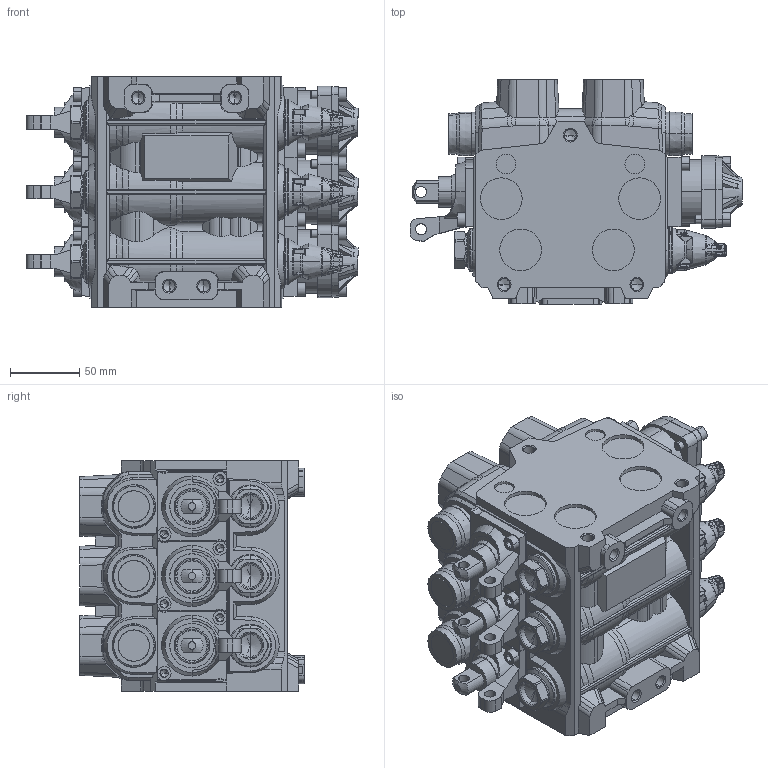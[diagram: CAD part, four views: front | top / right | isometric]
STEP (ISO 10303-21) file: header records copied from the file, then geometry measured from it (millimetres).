
FILE_DESCRIPTION (( 'STEP AP203' ), '1' );
FILE_NAME ('S-V3363B.STEP', '2018-05-22T12:40:16', ( '' ), ( '' ), 'SwSTEP 2.0', 'SolidWorks 2018', '' );
FILE_SCHEMA (( 'CONFIG_CONTROL_DESIGN' ));
Products named in the file (1): S-V3363B
Bounding box: 240 x 162 x 166.6 mm (x, y, z)
Surface area: 384550.4 mm2 (no closed solid volume)
Topology: 0 solids, 67 shells, 5111 faces, 12788 edges, 7647 vertices
Faces by surface type: plane 1595, bspline 1375, cylinder 1309, cone 598, torus 156, sphere 78
Entity records: 210223 total; most frequent: CARTESIAN_POINT 104015, ORIENTED_EDGE 24588, DIRECTION 18591, EDGE_CURVE 12522, VERTEX_POINT 7647, AXIS2_PLACEMENT_3D 6942, EDGE_LOOP 5354, ADVANCED_FACE 5111
